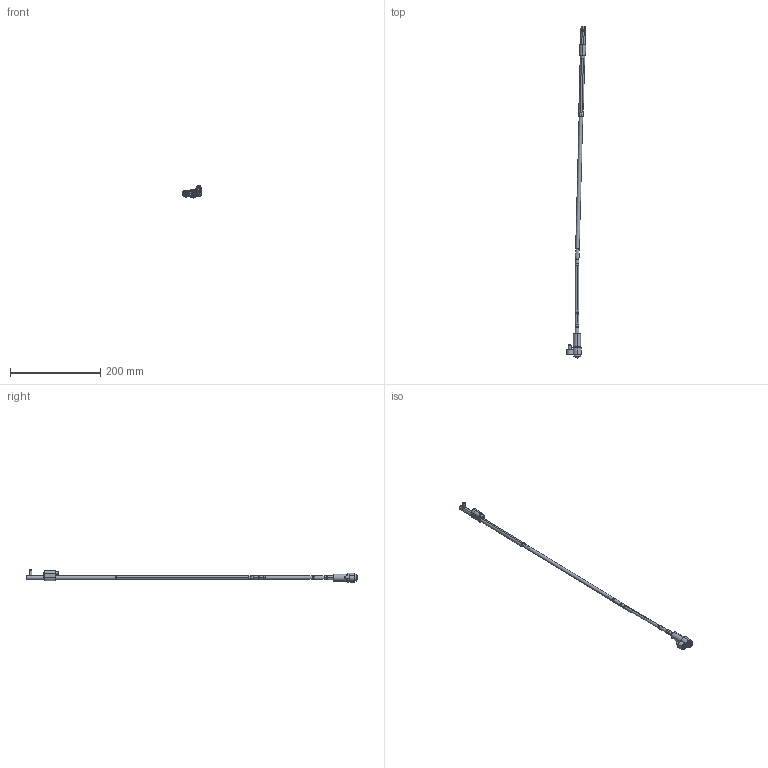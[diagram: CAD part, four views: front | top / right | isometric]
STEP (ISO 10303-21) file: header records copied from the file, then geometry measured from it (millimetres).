
FILE_DESCRIPTION (( 'STEP AP214' ), '1' );
FILE_NAME ('WL080100L-INJ 1,5°.STEP', '2021-03-19T15:25:49', ( '' ), ( '' ), 'SwSTEP 2.0', 'SolidWorks 2019', '' );
FILE_SCHEMA (( 'AUTOMOTIVE_DESIGN' ));
Length unit declared in the file: millimetre
Products named in the file (17): WL080100L-INJ 1,5°; WL080100-C; 1DIN912545_DIN 912 M5 x 50 --- 50C; WL080100-E; WL080100-B_WL0800FF; 3IMAN4X2-150_con sello; 9DR2206-TOR; Web-WL08-F00.SLDPRT; Web-WP08-1; 1DIN912616_DIN 912 M6 x 16 --- 16C; Web-WL08-F01; Web-WL08XX-A7_OFF-WL080100-1,5; Web-WL08-A3; WL080100-D; Web-WL08-A2; Web-WL08-A1; WL080100-B1_WL0800FF-1
Assembly tree (16 placements, depth 3):
  WL080100L-INJ 1,5°
    Web-WP08-1
    Web-WL08XX-A7_OFF-WL080100-1,5
    Web-WL08-A3
    Web-WL08-A2
    Web-WL08-A1
    WL080100-D
    WL080100-C
    WL080100-B_WL0800FF
      WL080100-B1_WL0800FF-1
      3IMAN4X2-150_con sello
    WL080100-E
    9DR2206-TOR
    Web-WL08-F00.SLDPRT
      Web-WL08-F01
      1DIN912545_DIN 912 M5 x 50 --- 50C
      1DIN912616_DIN 912 M6 x 16 --- 16C
Bounding box: 43.2 x 736.94 x 26.9 mm (x, y, z)
Volume: 57313.7 mm3; surface area: 33636.1 mm2
Topology: 15 solids, 15 shells, 424 faces, 888 edges, 516 vertices
Faces by surface type: plane 132, cylinder 128, cone 116, torus 48
Entity records: 13492 total; most frequent: DIRECTION 2218, CARTESIAN_POINT 2045, ORIENTED_EDGE 1756, AXIS2_PLACEMENT_3D 921, EDGE_CURVE 878, VERTEX_POINT 516, CIRCLE 476, EDGE_LOOP 468
